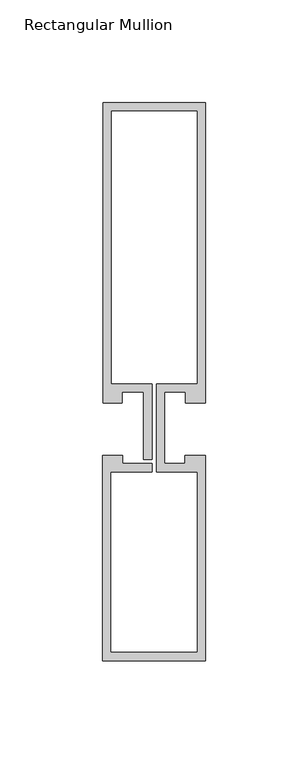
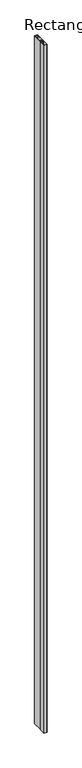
"""IFC4 building model written with IfcOpenShell, lengths in millimetres: member geometry, Rectangular Mullion : Reynaers_CW-50_Transom-Transom_146.5mm_Facecap-02D."""

from ifc_helpers import new_model, si_unit, frame, origin, place, context, project, spatial, polyline, outline, extrude, source, transform, mapped, element, save


def rectangular_mullion_7d98d56e(model_context):
    return source(origin(), model_context, "Body", "SweptSolid", [
        extrude(outline(polyline([(25.1995941, -12.7331291), (25.1995941, -112.7331291), (-24.994845, -112.7331291), (-24.994845, -12.7331291), (-15.2996495, -12.7331291), (-15.2996495, -16.7331291), (-0.9004059, -16.7331291), (-0.9004059, -20.7331291), (-20.994845, -20.7331291), (-20.994845, -108.7331291), (21.1995941, -108.7331291), (21.1995941, -20.7331291), (1.2995941, -20.7331291), (1.2995941, 22.1331291), (21.1995941, 22.1331291), (21.1995941, 155.2331291), (-20.8004059, 155.2331291), (-20.8004059, 22.1331291), (-0.9004059, 22.1331291), (-0.9004059, -14.7331291), (-4.9004059, -14.7331291), (-4.9004059, 18.1331291), (-15.499, 18.1331291), (-15.499, 12.7331291), (-24.8004059, 12.7331291), (-24.8004059, 159.2331291), (25.1995941, 159.2331291), (25.1995941, 12.7331291), (15.499, 12.7331291), (15.499, 18.1331291), (5.2995941, 18.1331291), (5.2995941, -16.7331291), (15.2996495, -16.7331291), (15.2996495, -12.7331291), (25.1995941, -12.7331291)])), frame((0.0, 0.0, -12000.0), z_axis=(0.0, 0.0, 1.0), x_axis=(1.0, 0.0, 0.0)), (0.0, 0.0, 1.0), 12000.0),
    ])


if __name__ == "__main__":
    model = new_model("IFC4")
    model_context = context("Model", 3, world=origin())
    ifc_project = project(units=[si_unit("LENGTHUNIT", "METRE", prefix="MILLI")], contexts=[model_context])
    site = spatial("IfcSite", under=ifc_project)
    building = spatial("IfcBuilding", under=site)
    placement = place(None, origin())
    rectangular_mullion_shape = rectangular_mullion_7d98d56e(model_context)
    element("IfcMember", 1, ObjectType="Rectangular Mullion : Reynaers_CW-50_Transom-Transom_146.5mm_Facecap-02D", at=placement, inside=building, context=model_context, shape_type="MappedRepresentation", body=[
        mapped(rectangular_mullion_shape, transform((0.0, 0.0, 0.0), x_axis=(1.0, 0.0, 0.0), y_axis=(0.0, 1.0, 0.0), z_axis=(0.0, 0.0, 1.0))),
    ])
    save(model, "model.ifc")
